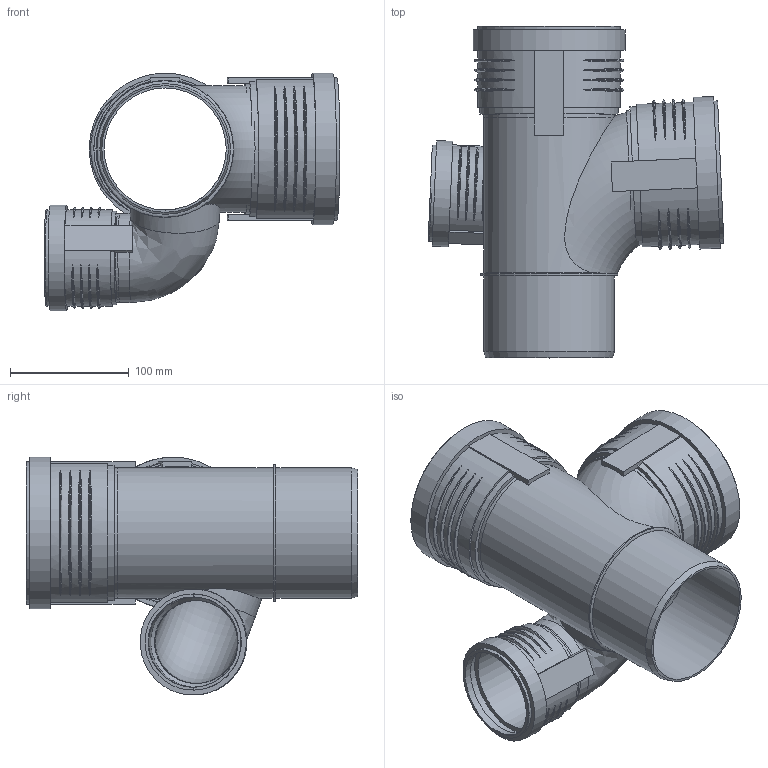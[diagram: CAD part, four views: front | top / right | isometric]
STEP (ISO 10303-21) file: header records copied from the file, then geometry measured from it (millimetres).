
FILE_DESCRIPTION(/* description */ (''),/* implementation_level */ '2;1');
FILE_NAME(/* name */ 'Z:\Geberit\Export\NewStep\390564.stp',/* time_stamp */ '2014-04-02T08:14:56+02:00',/* author */ ('ML'),/* organization */ (''),/* preprocessor_version */ 'ST-DEVELOPER v15.2',/* originating_system */ 'Autodesk Inventor 2014',/* authorisation */ '');
FILE_SCHEMA (('AUTOMOTIVE_DESIGN { 1 0 10303 214 3 1 1 }'));
Length unit declared in the file: millimetre
Products named in the file (4): 861569; 861404; 861402; 390564
Bounding box: 249.5 x 279.9 x 200.69 mm (x, y, z)
Volume: 593207.2 mm3; surface area: 365712.6 mm2
Topology: 5 solids, 5 shells, 199 faces, 487 edges, 334 vertices
Faces by surface type: torus 78, plane 66, cylinder 50, cone 4, bspline 1
Full cylindrical faces by diameter (mm): 70 x1, 70.2 x1, 75.2 x2, 76.2 x2, 81.2 x1, 84.6 x1, 89.6 x1, 103 x2, 103.2 x2, 110.2 x5, 113.3 x4, 120.3 x2, 121.1 x2, 128.1 x2
Entity records: 6053 total; most frequent: CARTESIAN_POINT 2691, ORIENTED_EDGE 624, DIRECTION 610, EDGE_CURVE 312, AXIS2_PLACEMENT_3D 265, VERTEX_POINT 231, EDGE_LOOP 209, STYLED_ITEM 148
